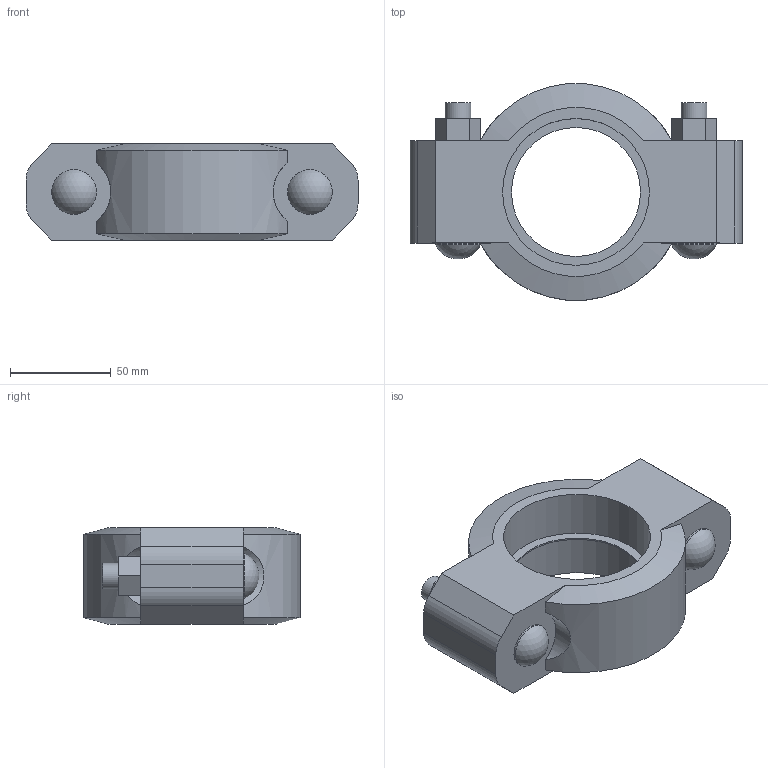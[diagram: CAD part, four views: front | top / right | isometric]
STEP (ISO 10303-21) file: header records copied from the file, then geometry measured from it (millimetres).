
FILE_DESCRIPTION(/* description */ ('Victaulic Standard Flexible Coupling Style 77','CAx-IF Rec.Pracs.---Representation and Presentation of Product Manufacturing Information (PMI)---4.0---2014-10-13'),/* implementation_level */ '2;1');
FILE_NAME(/* name */ 'C:\Users\Vjadhav\Desktop\CAD for Inventor\1\Coupling bolt thickness\77\Victaulic_IPS_Coupling Flexible_Style 77 (OGS)\Victaulic_IPS_Coupling Flexible_Style 77 (OGS)_2.5 (65).stp',/* time_stamp */ '2022-03-24T18:19:58+06:00',/* author */ ('CONSTRUCTION PIPING SERVICES'),/* organization */ ('Victaulic'),/* preprocessor_version */ 'ST-DEVELOPER v17.2',/* originating_system */ 'Autodesk Inventor 2019',/* authorisation */ '');
FILE_SCHEMA (('AP242_MANAGED_MODEL_BASED_3D_ENGINEERING_MIM_LF { 1 0 10303 442 1 1 4 }'));
Length unit declared in the file: inch
Products named in the file (1): 077-02.5
Bounding box: 165.1 x 107.58 x 47.75 mm (x, y, z)
Volume: 367348 mm3; surface area: 60139.7 mm2
Topology: 1 solids, 3 shells, 61 faces, 142 edges, 95 vertices
Faces by surface type: plane 34, cylinder 21, cone 4, sphere 2
Full cylindrical faces by diameter (mm): 12.7 x4, 14.605 x2, 22.225 x2, 64.135 x1, 73.025 x2
Entity records: 2075 total; most frequent: CARTESIAN_POINT 448, DIRECTION 323, ORIENTED_EDGE 284, EDGE_CURVE 142, AXIS2_PLACEMENT_3D 118, VERTEX_POINT 95, LINE 87, VECTOR 87
